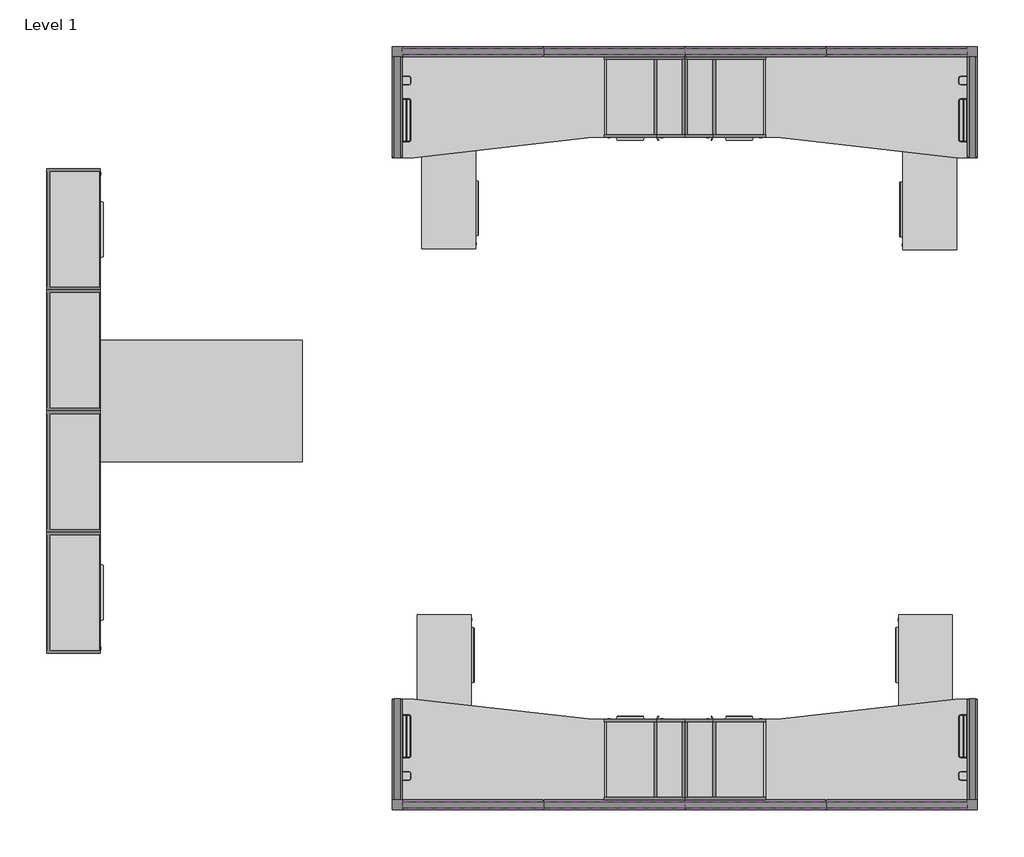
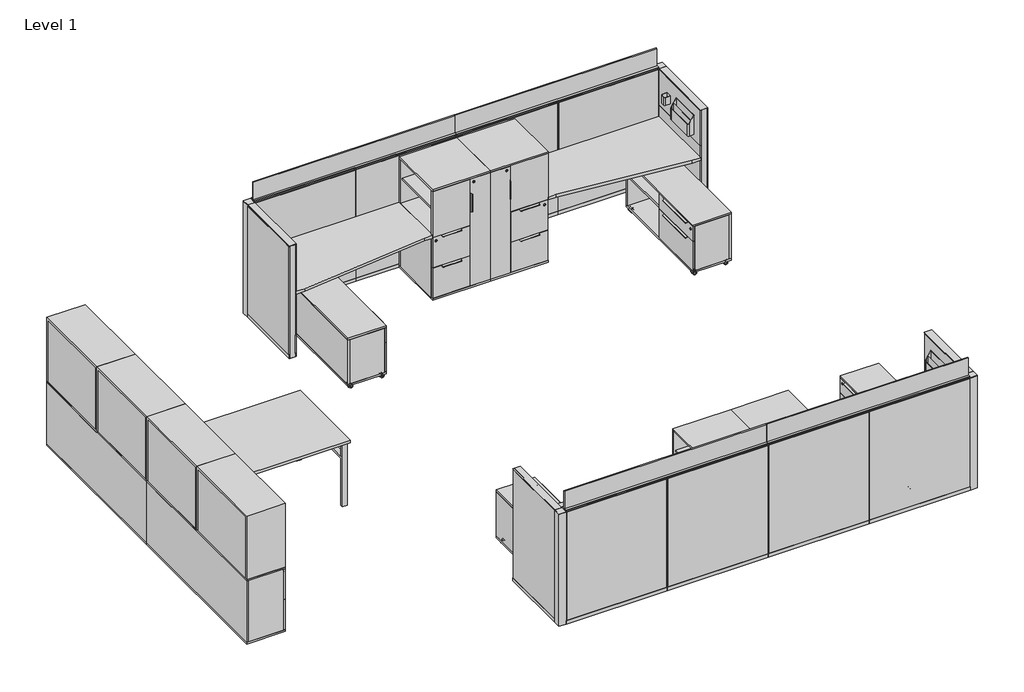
# One storey, incomplete: 53 furniture elements.
"""IFC4 building model written with IfcOpenShell, lengths in millimetres."""

from ifc_helpers import new_model, si_unit, origin, place, context, project, spatial, transform, mapped, element, save
from components import furniture_b84a5480, furniture_169a2497, furniture_0f168e3d, furniture_dbf79f29, furniture_16d_48w_3132835f, furniture_16d_48w_6f4809b6, furniture_16d_72w_5ced461d, furniture_16d_72w_67b9409d, furniture_28h_36w_6ba45165, furniture_28h_36w_e0649eac, furniture_60l_36w_db1131cf, haworth_belong_tool_cup_tool_cup_314b2932, haworth_belong_tool_cup_tool_cup_d6d42e5e, haworth_belong_tool_hangingsorter_sorter_b643d65a, haworth_belong_tool_hangingsorter_sorter_caf348c0, haworth_compose_panel_post_50h_90_degree_post_92b81c20, haworth_compose_panel_post_50h_90_degree_post_67cade53, haworth_compose_panel_solid_50h_30w_896d349b, haworth_compose_panel_solid_50h_30w_dea2f480, haworth_compose_panel_solid_50h_42w_afb3ee46, haworth_compose_panel_solid_50h_42w_990ef98e, haworth_compose_panel_stackframelessglass_8h_84w_97681693, haworth_compose_panel_stackframelessglass_8h_84w_ccb716e4, haworth_compose_worksurface_wedge_60w_24_30d_6eb2c6d6, haworth_compose_worksurface_wedge_60w_24_30d_cf931e97, proud_back_0982a6b6, proud_back_b5e9429d, proud_back_b9e9e623, proud_back_a2f7bcec

model = new_model("IFC4")

# Units and contexts
model_context = context("Model", 3, world=origin())
ifc_project = project(units=[si_unit("LENGTHUNIT", "METRE", prefix="MILLI")], contexts=[model_context])

# Site, building, storey
site = spatial("IfcSite", under=ifc_project)
building = spatial("IfcBuilding", under=site)
storey = spatial("IfcBuildingStorey", under=building, Name="Level 1", Elevation=0.0)

# Furniture
placement = place(None, origin())
furniture_shape = furniture_b84a5480(model_context)
element("IfcFurniture", 1, ObjectType="Haworth_BeHold_PersonalStorageTower_SideBookcase_24Wide : F/F - 24d 49h - Proud Back", at=placement, inside=storey, context=model_context, shape_type="MappedRepresentation", body=[
    mapped(furniture_shape, transform((390.4391648, 268.178426, 0.0), x_axis=(-0.9999999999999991, -4.3711386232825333e-08, 0.0), y_axis=(4.3711386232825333e-08, -0.9999999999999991, 0.0), z_axis=(0.0, 0.0, 1.0))),
])
element("IfcFurniture", 2, ObjectType="Haworth_BeHold_PersonalStorageTower_SideBookcase_24Wide : F/F - 24d 49h - Proud Back", at=placement, inside=storey, context=model_context, shape_type="MappedRepresentation", body=[
    mapped(furniture_shape, transform((1542.3574754, 6008.9546626, 0.0), x_axis=(0.9999999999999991, -4.371137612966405e-08, 0.0), y_axis=(4.371137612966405e-08, 0.9999999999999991, 0.0), z_axis=(0.0, 0.0, 1.0))),
])
furniture_2_shape = furniture_169a2497(model_context)
element("IfcFurniture", 3, ObjectType="Haworth_BeHold_PersonalStorageTower_SideBookcase_24Wide : F/F - 24d 49h - Proud Back", at=placement, inside=storey, context=model_context, shape_type="MappedRepresentation", body=[
    mapped(furniture_2_shape, transform((1542.3574754, 268.1784763, 0.0), x_axis=(0.9999999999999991, 4.371137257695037e-08, 0.0), y_axis=(-4.371137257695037e-08, 0.9999999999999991, 0.0), z_axis=(0.0, 0.0, 1.0))),
])
element("IfcFurniture", 4, ObjectType="Haworth_BeHold_PersonalStorageTower_SideBookcase_24Wide : F/F - 24d 49h - Proud Back", at=placement, inside=storey, context=model_context, shape_type="MappedRepresentation", body=[
    mapped(furniture_2_shape, transform((390.4391648, 6008.954713, 0.0), x_axis=(-0.9999999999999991, 4.371138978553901e-08, 0.0), y_axis=(-4.371138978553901e-08, -0.9999999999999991, 0.0), z_axis=(0.0, 0.0, 1.0))),
])
furniture_3_shape = furniture_0f168e3d(model_context)
element("IfcFurniture", 5, ObjectType="Haworth_BeHold_Modular_AttachedCredenza_StorageEnd : 2H - 72w - 36w Open - Proud Back", at=placement, inside=storey, context=model_context, shape_type="MappedRepresentation", body=[
    mapped(furniture_3_shape, transform((-3943.9541163, 2197.6362807, 0.0), x_axis=(0.0, -1.0, 0.0), y_axis=(1.0, 0.0, 0.0), z_axis=(0.0, 0.0, 1.0))),
])
furniture_4_shape = furniture_dbf79f29(model_context)
element("IfcFurniture", 6, ObjectType="Haworth_BeHold_Modular_AttachedCredenza_StorageEnd : 2H - 72w - 36w Open - Proud Back", at=placement, inside=storey, context=model_context, shape_type="MappedRepresentation", body=[
    mapped(furniture_4_shape, transform((-3943.9541163, 4340.1545914, 0.0), x_axis=(0.0, 1.0, 0.0), y_axis=(-1.0, 0.0, 0.0), z_axis=(0.0, 0.0, 1.0))),
])
furniture_16d_48w_shape = furniture_16d_48w_3132835f(model_context)
element("IfcFurniture", 7, ObjectType="Haworth_BeHold_CommonTop : 16d 48w", at=placement, inside=storey, context=model_context, shape_type="MappedRepresentation", body=[
    mapped(furniture_16d_48w_shape, transform((-1142.5995264, 1276.8811051, 19.05), x_axis=(0.0, 1.0, 0.0), y_axis=(-1.0, 0.0, 0.0), z_axis=(0.0, 0.0, 1.0))),
])
element("IfcFurniture", 8, ObjectType="Haworth_BeHold_CommonTop : 16d 48w", at=placement, inside=storey, context=model_context, shape_type="MappedRepresentation", body=[
    mapped(furniture_16d_48w_shape, transform((3108.3236755, 4938.679285, 19.05), x_axis=(8.742278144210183e-08, -0.9999999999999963, 0.0), y_axis=(0.9999999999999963, 8.742278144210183e-08, 0.0), z_axis=(0.0, 0.0, 1.0))),
])
furniture_16d_48w_2_shape = furniture_16d_48w_6f4809b6(model_context)
element("IfcFurniture", 9, ObjectType="Haworth_BeHold_CommonTop : 16d 48w", at=placement, inside=storey, context=model_context, shape_type="MappedRepresentation", body=[
    mapped(furniture_16d_48w_2_shape, transform((3075.3960784, 1276.8812894, 19.05), x_axis=(-8.742276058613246e-08, 0.9999999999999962, 0.0), y_axis=(-0.9999999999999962, -8.742276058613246e-08, 0.0), z_axis=(0.0, 0.0, 1.0))),
])
element("IfcFurniture", 10, ObjectType="Haworth_BeHold_CommonTop : 16d 48w", at=placement, inside=storey, context=model_context, shape_type="MappedRepresentation", body=[
    mapped(furniture_16d_48w_2_shape, transform((-1109.7318443, 4948.2663609, 19.05), x_axis=(1.7484555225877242e-07, -0.9999999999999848, 0.0), y_axis=(0.9999999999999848, 1.7484555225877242e-07, 0.0), z_axis=(0.0, 0.0, 1.0))),
])
furniture_16d_72w_shape = furniture_16d_72w_5ced461d(model_context)
element("IfcFurniture", 11, ObjectType="Haworth_BeHold_CommonTop : 16d 72w", at=placement, inside=storey, context=model_context, shape_type="MappedRepresentation", body=[
    mapped(furniture_16d_72w_shape, transform((-3943.9541163, 2511.3545914, 171.45), x_axis=(0.0, 1.0, 0.0), y_axis=(-1.0, 0.0, 0.0), z_axis=(0.0, 0.0, 1.0))),
])
furniture_16d_72w_2_shape = furniture_16d_72w_67b9409d(model_context)
element("IfcFurniture", 12, ObjectType="Haworth_BeHold_CommonTop : 16d 72w", at=placement, inside=storey, context=model_context, shape_type="MappedRepresentation", body=[
    mapped(furniture_16d_72w_2_shape, transform((-3943.9541163, 4026.4362807, 171.45), x_axis=(0.0, -1.0, 0.0), y_axis=(1.0, 0.0, 0.0), z_axis=(0.0, 0.0, 1.0))),
])
furniture_28h_36w_shape = furniture_28h_36w_6ba45165(model_context)
element("IfcFurniture", 13, ObjectType="Haworth_BeHold_StackOnBookcase : 28h 36w", at=placement, inside=storey, context=model_context, shape_type="MappedRepresentation", body=[
    mapped(furniture_28h_36w_shape, transform((-3943.9541163, 2054.1545914, 171.45), x_axis=(0.0, 1.0, 0.0), y_axis=(-1.0, 0.0, 0.0), z_axis=(0.0, 0.0, 1.0))),
])
element("IfcFurniture", 14, ObjectType="Haworth_BeHold_StackOnBookcase : 28h 36w", at=placement, inside=storey, context=model_context, shape_type="MappedRepresentation", body=[
    mapped(furniture_28h_36w_shape, transform((-3943.9541163, 2968.5545914, 171.45), x_axis=(0.0, 1.0, 0.0), y_axis=(-1.0, 0.0, 0.0), z_axis=(0.0, 0.0, 1.0))),
])
furniture_28h_36w_2_shape = furniture_28h_36w_e0649eac(model_context)
element("IfcFurniture", 15, ObjectType="Haworth_BeHold_StackOnBookcase : 28h 36w", at=placement, inside=storey, context=model_context, shape_type="MappedRepresentation", body=[
    mapped(furniture_28h_36w_2_shape, transform((-3943.9541163, 4483.6362807, 171.45), x_axis=(0.0, -1.0, 0.0), y_axis=(1.0, 0.0, 0.0), z_axis=(0.0, 0.0, 1.0))),
])
element("IfcFurniture", 16, ObjectType="Haworth_BeHold_StackOnBookcase : 28h 36w", at=placement, inside=storey, context=model_context, shape_type="MappedRepresentation", body=[
    mapped(furniture_28h_36w_2_shape, transform((-3943.9541163, 3569.2362807, 171.45), x_axis=(0.0, -1.0, 0.0), y_axis=(1.0, 0.0, 0.0), z_axis=(0.0, 0.0, 1.0))),
])
furniture_60l_36w_shape = furniture_60l_36w_db1131cf(model_context)
element("IfcFurniture", 17, ObjectType="Haworth_Compose_Worksurface_RectangularConvergent : 60L 36w", at=placement, inside=storey, context=model_context, shape_type="MappedRepresentation", body=[
    mapped(furniture_60l_36w_shape, transform((-2686.6541163, 3344.3338546, 0.0), x_axis=(0.0, -1.0, 0.0), y_axis=(1.0, 0.0, 0.0), z_axis=(0.0, 0.0, 1.0))),
])
haworth_belong_tool_cup_tool_cup_shape = haworth_belong_tool_cup_tool_cup_314b2932(model_context)
element("IfcFurniture", 18, ObjectType="Haworth_Belong_Tool_Cup : Tool Cup", at=placement, inside=storey, context=model_context, shape_type="MappedRepresentation", body=[
    mapped(haworth_belong_tool_cup_tool_cup_shape, transform((-1167.2016827, 347.5997204, 1003.3), x_axis=(0.0, 1.0, 0.0), y_axis=(-1.0, 0.0, 0.0), z_axis=(0.0, 0.0, 1.0))),
])
element("IfcFurniture", 19, ObjectType="Haworth_Belong_Tool_Cup : Tool Cup", at=placement, inside=storey, context=model_context, shape_type="MappedRepresentation", body=[
    mapped(haworth_belong_tool_cup_tool_cup_shape, transform((3099.9983159, 5929.533232, 1003.3), x_axis=(-8.742276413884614e-08, -0.9999999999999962, 0.0), y_axis=(0.9999999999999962, -8.742276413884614e-08, 0.0), z_axis=(0.0, 0.0, 1.0))),
])
haworth_belong_tool_cup_tool_cup_2_shape = haworth_belong_tool_cup_tool_cup_d6d42e5e(model_context)
element("IfcFurniture", 20, ObjectType="Haworth_Belong_Tool_Cup : Tool Cup", at=placement, inside=storey, context=model_context, shape_type="MappedRepresentation", body=[
    mapped(haworth_belong_tool_cup_tool_cup_2_shape, transform((3099.9983159, 347.599907, 1003.3), x_axis=(-8.742276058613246e-08, 0.9999999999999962, 0.0), y_axis=(-0.9999999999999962, -8.742276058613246e-08, 0.0), z_axis=(0.0, 0.0, 1.0))),
])
element("IfcFurniture", 21, ObjectType="Haworth_Belong_Tool_Cup : Tool Cup", at=placement, inside=storey, context=model_context, shape_type="MappedRepresentation", body=[
    mapped(haworth_belong_tool_cup_tool_cup_2_shape, transform((-1167.2016827, 5929.5334185, 1003.3), x_axis=(0.0, -1.0, 0.0), y_axis=(1.0, 0.0, 0.0), z_axis=(0.0, 0.0, 1.0))),
])
haworth_belong_tool_hangingsorter_sorter_shape = haworth_belong_tool_hangingsorter_sorter_b643d65a(model_context)
element("IfcFurniture", 22, ObjectType="Haworth_Belong_Tool_HangingSorter : Sorter", at=placement, inside=storey, context=model_context, shape_type="MappedRepresentation", body=[
    mapped(haworth_belong_tool_hangingsorter_sorter_shape, transform((-1167.2016827, 646.0033579, 922.3375), x_axis=(0.0, 1.0, 0.0), y_axis=(-1.0, 0.0, 0.0), z_axis=(0.0, 0.0, 1.0))),
])
element("IfcFurniture", 23, ObjectType="Haworth_Belong_Tool_HangingSorter : Sorter", at=placement, inside=storey, context=model_context, shape_type="MappedRepresentation", body=[
    mapped(haworth_belong_tool_hangingsorter_sorter_shape, transform((3099.9982899, 5631.1295945, 922.3375), x_axis=(-8.742276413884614e-08, -0.9999999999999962, 0.0), y_axis=(0.9999999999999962, -8.742276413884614e-08, 0.0), z_axis=(0.0, 0.0, 1.0))),
])
haworth_belong_tool_hangingsorter_sorter_2_shape = haworth_belong_tool_hangingsorter_sorter_caf348c0(model_context)
element("IfcFurniture", 24, ObjectType="Haworth_Belong_Tool_HangingSorter : Sorter", at=placement, inside=storey, context=model_context, shape_type="MappedRepresentation", body=[
    mapped(haworth_belong_tool_hangingsorter_sorter_2_shape, transform((3099.9982899, 646.0035444, 922.3375), x_axis=(-8.742276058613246e-08, 0.9999999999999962, 0.0), y_axis=(-0.9999999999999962, -8.742276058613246e-08, 0.0), z_axis=(0.0, 0.0, 1.0))),
])
element("IfcFurniture", 25, ObjectType="Haworth_Belong_Tool_HangingSorter : Sorter", at=placement, inside=storey, context=model_context, shape_type="MappedRepresentation", body=[
    mapped(haworth_belong_tool_hangingsorter_sorter_2_shape, transform((-1167.2016827, 5631.1297811, 922.3375), x_axis=(0.0, -1.0, 0.0), y_axis=(1.0, 0.0, 0.0), z_axis=(0.0, 0.0, 1.0))),
])
haworth_compose_panel_post_50h_90_degree_post_shape = haworth_compose_panel_post_50h_90_degree_post_92b81c20(model_context)
element("IfcFurniture", 26, ObjectType="Haworth_Compose_Panel_Post : 50h 90 Degree Post", at=placement, inside=storey, context=model_context, shape_type="MappedRepresentation", body=[
    mapped(haworth_compose_panel_post_50h_90_degree_post_shape, transform((-1205.3016827, 255.4782089, 0.0), x_axis=(0.0, 1.0, 0.0), y_axis=(-1.0, 0.0, 0.0), z_axis=(0.0, 0.0, 1.0))),
])
element("IfcFurniture", 27, ObjectType="Haworth_Compose_Panel_Post : 50h 90 Degree Post", at=placement, inside=storey, context=model_context, shape_type="MappedRepresentation", body=[
    mapped(haworth_compose_panel_post_50h_90_degree_post_shape, transform((3138.098324, 6021.6547402, 0.0), x_axis=(-8.742276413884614e-08, -0.9999999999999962, 0.0), y_axis=(0.9999999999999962, -8.742276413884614e-08, 0.0), z_axis=(0.0, 0.0, 1.0))),
])
haworth_compose_panel_post_50h_90_degree_post_2_shape = haworth_compose_panel_post_50h_90_degree_post_67cade53(model_context)
element("IfcFurniture", 28, ObjectType="Haworth_Compose_Panel_Post : 50h 90 Degree Post", at=placement, inside=storey, context=model_context, shape_type="MappedRepresentation", body=[
    mapped(haworth_compose_panel_post_50h_90_degree_post_2_shape, transform((3138.098324, 255.4783987, 0.0), x_axis=(-8.742276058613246e-08, 0.9999999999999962, 0.0), y_axis=(-0.9999999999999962, -8.742276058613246e-08, 0.0), z_axis=(0.0, 0.0, 1.0))),
])
element("IfcFurniture", 29, ObjectType="Haworth_Compose_Panel_Post : 50h 90 Degree Post", at=placement, inside=storey, context=model_context, shape_type="MappedRepresentation", body=[
    mapped(haworth_compose_panel_post_50h_90_degree_post_2_shape, transform((-1205.3016827, 6021.6549301, 0.0), x_axis=(0.0, -1.0, 0.0), y_axis=(1.0, 0.0, 0.0), z_axis=(0.0, 0.0, 1.0))),
])
haworth_compose_panel_solid_50h_30w_shape = haworth_compose_panel_solid_50h_30w_896d349b(model_context)
element("IfcFurniture", 30, ObjectType="Haworth_Compose_Panel_Solid : 50h 30w", at=placement, inside=storey, context=model_context, shape_type="MappedRepresentation", body=[
    mapped(haworth_compose_panel_solid_50h_30w_shape, transform((-1205.3016827, 710.2380677, 0.0), x_axis=(0.0, 1.0, 0.0), y_axis=(-1.0, 0.0, 0.0), z_axis=(0.0, 0.0, 1.0))),
])
element("IfcFurniture", 31, ObjectType="Haworth_Compose_Panel_Solid : 50h 30w", at=placement, inside=storey, context=model_context, shape_type="MappedRepresentation", body=[
    mapped(haworth_compose_panel_solid_50h_30w_shape, transform((3138.0982842, 5566.8948814, 0.0), x_axis=(-8.742276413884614e-08, -0.9999999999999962, 0.0), y_axis=(0.9999999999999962, -8.742276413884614e-08, 0.0), z_axis=(0.0, 0.0, 1.0))),
])
haworth_compose_panel_solid_50h_30w_2_shape = haworth_compose_panel_solid_50h_30w_dea2f480(model_context)
element("IfcFurniture", 32, ObjectType="Haworth_Compose_Panel_Solid : 50h 30w", at=placement, inside=storey, context=model_context, shape_type="MappedRepresentation", body=[
    mapped(haworth_compose_panel_solid_50h_30w_2_shape, transform((3138.0982842, 710.2382576, 0.0), x_axis=(-8.742276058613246e-08, 0.9999999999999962, 0.0), y_axis=(-0.9999999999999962, -8.742276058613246e-08, 0.0), z_axis=(0.0, 0.0, 1.0))),
])
element("IfcFurniture", 33, ObjectType="Haworth_Compose_Panel_Solid : 50h 30w", at=placement, inside=storey, context=model_context, shape_type="MappedRepresentation", body=[
    mapped(haworth_compose_panel_solid_50h_30w_2_shape, transform((-1205.3016827, 5566.8950712, 0.0), x_axis=(0.0, -1.0, 0.0), y_axis=(1.0, 0.0, 0.0), z_axis=(0.0, 0.0, 1.0))),
])
haworth_compose_panel_solid_50h_42w_shape = haworth_compose_panel_solid_50h_42w_afb3ee46(model_context)
element("IfcFurniture", 34, ObjectType="Haworth_Compose_Panel_Solid : 50h 42w", at=placement, inside=storey, context=model_context, shape_type="MappedRepresentation", body=[
    mapped(haworth_compose_panel_solid_50h_42w_shape, transform((-636.2419712, 293.5782321, 0.0), x_axis=(0.999999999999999, 4.371138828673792e-08, 0.0), y_axis=(-4.371138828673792e-08, 0.999999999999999, 0.0), z_axis=(0.0, 0.0, 1.0))),
])
element("IfcFurniture", 35, ObjectType="Haworth_Compose_Panel_Solid : 50h 42w", at=placement, inside=storey, context=model_context, shape_type="MappedRepresentation", body=[
    mapped(haworth_compose_panel_solid_50h_42w_shape, transform((430.5580288, 293.5782787, 0.0), x_axis=(0.9999999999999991, 4.3711382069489e-08, 0.0), y_axis=(-4.3711382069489e-08, 0.9999999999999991, 0.0), z_axis=(0.0, 0.0, 1.0))),
])
element("IfcFurniture", 36, ObjectType="Haworth_Compose_Panel_Solid : 50h 42w", at=placement, inside=storey, context=model_context, shape_type="MappedRepresentation", body=[
    mapped(haworth_compose_panel_solid_50h_42w_shape, transform((2569.0386092, 5983.5547668, 0.0), x_axis=(-0.999999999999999, 4.371137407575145e-08, 0.0), y_axis=(-4.371137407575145e-08, -0.999999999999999, 0.0), z_axis=(0.0, 0.0, 1.0))),
])
element("IfcFurniture", 37, ObjectType="Haworth_Compose_Panel_Solid : 50h 42w", at=placement, inside=storey, context=model_context, shape_type="MappedRepresentation", body=[
    mapped(haworth_compose_panel_solid_50h_42w_shape, transform((1502.2386092, 5983.5548134, 0.0), x_axis=(-0.999999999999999, 4.371138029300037e-08, 0.0), y_axis=(-4.371138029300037e-08, -0.999999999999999, 0.0), z_axis=(0.0, 0.0, 1.0))),
])
haworth_compose_panel_solid_50h_42w_2_shape = haworth_compose_panel_solid_50h_42w_990ef98e(model_context)
element("IfcFurniture", 38, ObjectType="Haworth_Compose_Panel_Solid : 50h 42w", at=placement, inside=storey, context=model_context, shape_type="MappedRepresentation", body=[
    mapped(haworth_compose_panel_solid_50h_42w_2_shape, transform((2569.0386092, 293.5783722, 0.0), x_axis=(-0.999999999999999, -4.371137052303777e-08, 0.0), y_axis=(4.371137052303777e-08, -0.999999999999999, 0.0), z_axis=(0.0, 0.0, 1.0))),
])
element("IfcFurniture", 39, ObjectType="Haworth_Compose_Panel_Solid : 50h 42w", at=placement, inside=storey, context=model_context, shape_type="MappedRepresentation", body=[
    mapped(haworth_compose_panel_solid_50h_42w_2_shape, transform((1502.2386092, 293.5783256, 0.0), x_axis=(-0.999999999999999, -4.371137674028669e-08, 0.0), y_axis=(4.371137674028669e-08, -0.999999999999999, 0.0), z_axis=(0.0, 0.0, 1.0))),
])
element("IfcFurniture", 40, ObjectType="Haworth_Compose_Panel_Solid : 50h 42w", at=placement, inside=storey, context=model_context, shape_type="MappedRepresentation", body=[
    mapped(haworth_compose_panel_solid_50h_42w_2_shape, transform((-636.2419712, 5983.5549069, 0.0), x_axis=(0.999999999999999, -4.37113918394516e-08, 0.0), y_axis=(4.37113918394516e-08, 0.999999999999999, 0.0), z_axis=(0.0, 0.0, 1.0))),
])
element("IfcFurniture", 41, ObjectType="Haworth_Compose_Panel_Solid : 50h 42w", at=placement, inside=storey, context=model_context, shape_type="MappedRepresentation", body=[
    mapped(haworth_compose_panel_solid_50h_42w_2_shape, transform((430.5580288, 5983.5548602, 0.0), x_axis=(0.9999999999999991, -4.3711385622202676e-08, 0.0), y_axis=(4.3711385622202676e-08, 0.9999999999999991, 0.0), z_axis=(0.0, 0.0, 1.0))),
])
haworth_compose_panel_stackframelessglass_8h_84w_shape = haworth_compose_panel_stackframelessglass_8h_84w_97681693(model_context)
element("IfcFurniture", 42, ObjectType="Haworth_Compose_Panel_StackFramelessGlass : 8h 84w", at=placement, inside=storey, context=model_context, shape_type="MappedRepresentation", body=[
    mapped(haworth_compose_panel_stackframelessglass_8h_84w_shape, transform((-102.8419712, 314.5375683, 0.0), x_axis=(1.0, 0.0, 0.0), y_axis=(0.0, 1.0, 0.0), z_axis=(0.0, 0.0, 1.0))),
])
element("IfcFurniture", 43, ObjectType="Haworth_Compose_Panel_StackFramelessGlass : 8h 84w", at=placement, inside=storey, context=model_context, shape_type="MappedRepresentation", body=[
    mapped(haworth_compose_panel_stackframelessglass_8h_84w_shape, transform((2035.638611, 5962.5952911, 0.0), x_axis=(-0.9999999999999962, -8.742275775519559e-08, 0.0), y_axis=(8.742275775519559e-08, -0.9999999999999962, 0.0), z_axis=(0.0, 0.0, 1.0))),
])
haworth_compose_panel_stackframelessglass_8h_84w_2_shape = haworth_compose_panel_stackframelessglass_8h_84w_ccb716e4(model_context)
element("IfcFurniture", 44, ObjectType="Haworth_Compose_Panel_StackFramelessGlass : 8h 84w", at=placement, inside=storey, context=model_context, shape_type="MappedRepresentation", body=[
    mapped(haworth_compose_panel_stackframelessglass_8h_84w_2_shape, transform((2035.6386073, 314.5376618, 0.0), x_axis=(-0.9999999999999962, -8.742275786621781e-08, 0.0), y_axis=(8.742275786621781e-08, -0.9999999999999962, 0.0), z_axis=(0.0, 0.0, 1.0))),
])
element("IfcFurniture", 45, ObjectType="Haworth_Compose_Panel_StackFramelessGlass : 8h 84w", at=placement, inside=storey, context=model_context, shape_type="MappedRepresentation", body=[
    mapped(haworth_compose_panel_stackframelessglass_8h_84w_2_shape, transform((-102.8419712, 5962.5955706, 0.0), x_axis=(1.0, 0.0, 0.0), y_axis=(0.0, 1.0, 0.0), z_axis=(0.0, 0.0, 1.0))),
])
haworth_compose_worksurface_wedge_60w_24_30d_shape = haworth_compose_worksurface_wedge_60w_24_30d_6eb2c6d6(model_context)
element("IfcFurniture", 46, ObjectType="Haworth_Compose_Worksurface_Wedge : 60w 24/30d", at=placement, inside=storey, context=model_context, shape_type="MappedRepresentation", body=[
    mapped(haworth_compose_worksurface_wedge_60w_24_30d_shape, transform((2337.998284, 712.6784778, 0.0), x_axis=(-0.9999999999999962, -8.742276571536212e-08, 0.0), y_axis=(8.742276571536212e-08, -0.9999999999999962, 0.0), z_axis=(0.0, 0.0, 1.0))),
])
element("IfcFurniture", 47, ObjectType="Haworth_Compose_Worksurface_Wedge : 60w 24/30d", at=placement, inside=storey, context=model_context, shape_type="MappedRepresentation", body=[
    mapped(haworth_compose_worksurface_wedge_60w_24_30d_shape, transform((-405.2016827, 5564.4547811, 0.0), x_axis=(1.0, 0.0, 0.0), y_axis=(0.0, 1.0, 0.0), z_axis=(0.0, 0.0, 1.0))),
])
haworth_compose_worksurface_wedge_60w_24_30d_2_shape = haworth_compose_worksurface_wedge_60w_24_30d_cf931e97(model_context)
element("IfcFurniture", 48, ObjectType="Haworth_Compose_Worksurface_Wedge : 60w 24/30d", at=placement, inside=storey, context=model_context, shape_type="MappedRepresentation", body=[
    mapped(haworth_compose_worksurface_wedge_60w_24_30d_2_shape, transform((-405.2016827, 712.6783579, 0.0), x_axis=(1.0, 0.0, 0.0), y_axis=(0.0, 1.0, 0.0), z_axis=(0.0, 0.0, 1.0))),
])
element("IfcFurniture", 49, ObjectType="Haworth_Compose_Worksurface_Wedge : 60w 24/30d", at=placement, inside=storey, context=model_context, shape_type="MappedRepresentation", body=[
    mapped(haworth_compose_worksurface_wedge_60w_24_30d_2_shape, transform((2337.998284, 5564.4546611, 0.0), x_axis=(-0.9999999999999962, 8.74227692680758e-08, 0.0), y_axis=(-8.74227692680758e-08, -0.9999999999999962, 0.0), z_axis=(0.0, 0.0, 1.0))),
])
proud_back_shape = proud_back_0982a6b6(model_context)
proud_back_2_shape = proud_back_b5e9429d(model_context)
element("IfcFurniture", 50, ObjectType="Haworth_BeHold_Modular_MobileCredenza : Proud Back", at=placement, inside=storey, context=model_context, shape_type="MappedRepresentation", body=[
    mapped(proud_back_shape, transform((-1142.5995264, 1276.8811051, 0.0), x_axis=(0.0, 1.0, 0.0), y_axis=(-1.0, 0.0, 0.0), z_axis=(0.0, 0.0, 1.0))),
    mapped(proud_back_2_shape, transform((-1142.5995264, 1276.8811051, 0.0), x_axis=(0.0, 1.0, 0.0), y_axis=(-1.0, 0.0, 0.0), z_axis=(0.0, 0.0, 1.0))),
])
element("IfcFurniture", 51, ObjectType="Haworth_BeHold_Modular_MobileCredenza : Proud Back", at=placement, inside=storey, context=model_context, shape_type="MappedRepresentation", body=[
    mapped(proud_back_shape, transform((3108.3236755, 4938.679285, 0.0), x_axis=(8.742277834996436e-08, -0.9999999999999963, 0.0), y_axis=(0.9999999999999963, 8.742277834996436e-08, 0.0), z_axis=(0.0, 0.0, 1.0))),
    mapped(proud_back_2_shape, transform((3108.3236755, 4938.679285, 0.0), x_axis=(8.742277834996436e-08, -0.9999999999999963, 0.0), y_axis=(0.9999999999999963, 8.742277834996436e-08, 0.0), z_axis=(0.0, 0.0, 1.0))),
])
proud_back_3_shape = proud_back_b9e9e623(model_context)
proud_back_4_shape = proud_back_a2f7bcec(model_context)
element("IfcFurniture", 52, ObjectType="Haworth_BeHold_Modular_MobileCredenza : Proud Back", at=placement, inside=storey, context=model_context, shape_type="MappedRepresentation", body=[
    mapped(proud_back_3_shape, transform((3075.3960784, 1276.8812894, 0.0), x_axis=(-8.742275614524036e-08, 0.9999999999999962, 0.0), y_axis=(-0.9999999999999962, -8.742275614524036e-08, 0.0), z_axis=(0.0, 0.0, 1.0))),
    mapped(proud_back_4_shape, transform((3075.3960784, 1276.8812894, 0.0), x_axis=(-8.742275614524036e-08, 0.9999999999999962, 0.0), y_axis=(-0.9999999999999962, -8.742275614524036e-08, 0.0), z_axis=(0.0, 0.0, 1.0))),
])
element("IfcFurniture", 53, ObjectType="Haworth_BeHold_Modular_MobileCredenza : Proud Back", at=placement, inside=storey, context=model_context, shape_type="MappedRepresentation", body=[
    mapped(proud_back_3_shape, transform((-1109.7318443, 4948.2663609, 0.0), x_axis=(1.7484554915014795e-07, -0.9999999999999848, 0.0), y_axis=(0.9999999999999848, 1.7484554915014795e-07, 0.0), z_axis=(0.0, 0.0, 1.0))),
    mapped(proud_back_4_shape, transform((-1109.7318443, 4948.2663609, 0.0), x_axis=(1.7484554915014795e-07, -0.9999999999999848, 0.0), y_axis=(0.9999999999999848, 1.7484554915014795e-07, 0.0), z_axis=(0.0, 0.0, 1.0))),
])

save(model, "model.ifc")
